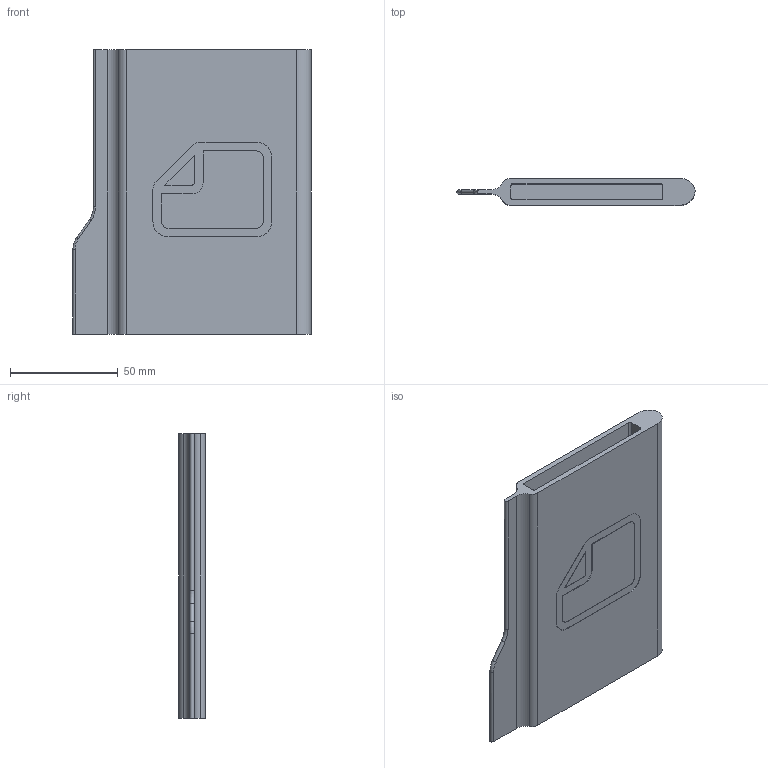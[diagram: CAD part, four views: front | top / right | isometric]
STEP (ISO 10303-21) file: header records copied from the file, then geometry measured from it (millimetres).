
FILE_DESCRIPTION(/* description */ (''),/* implementation_level */ '2;1');
FILE_NAME(/* name */ 'shell documents.step',/* time_stamp */ '2025-09-12T21:17:46+02:00',/* author */ (''),/* organization */ (''),/* preprocessor_version */ 'ST-DEVELOPER v20.1',/* originating_system */ 'Autodesk Translation Framework v14.10.0.0',/* authorisation */ '');
FILE_SCHEMA (('AUTOMOTIVE_DESIGN { 1 0 10303 214 3 1 1 }'));
Length unit declared in the file: millimetre
Products named in the file (1): case tipo3
Bounding box: 110.5 x 12.5 x 132 mm (x, y, z)
Volume: 84535.9 mm3; surface area: 50357.5 mm2
Topology: 1 solids, 1 shells, 54 faces, 145 edges, 97 vertices
Faces by surface type: plane 28, cylinder 24, torus 2
Entity records: 1743 total; most frequent: CARTESIAN_POINT 307, DIRECTION 304, ORIENTED_EDGE 290, EDGE_CURVE 145, AXIS2_PLACEMENT_3D 106, VERTEX_POINT 97, LINE 92, VECTOR 92
